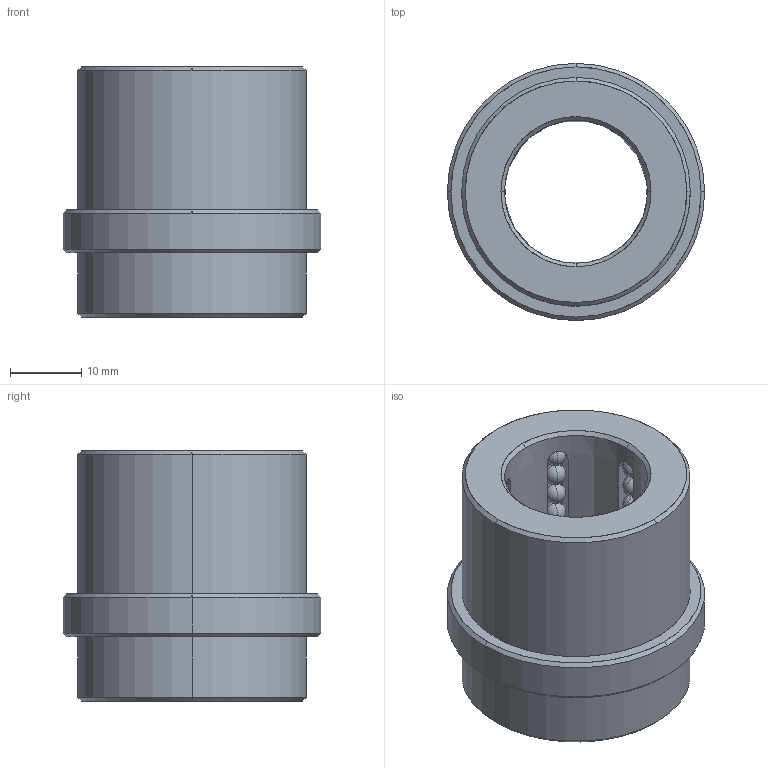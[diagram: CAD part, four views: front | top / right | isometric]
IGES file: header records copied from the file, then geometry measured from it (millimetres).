
Start section: START RECORD GO HERE.
Global section: file name: B8022026.igs; native system: DASSAULT SYSTEMES CATIA V5 R20 - www.3ds.com; preprocessor: CATIA Version 5 Release 20 ; author: Utente; organization: NB04-ASUS; date: 20200419.150258; units: millimetre
Bounding box: 36 x 36 x 35 mm (x, y, z)
Surface area: 9651.7 mm2 (no closed solid volume)
Topology: 0 solids, 0 shells, 282 faces, 1188 edges, 756 vertices
Faces by surface type: revolution 260, plane 22
